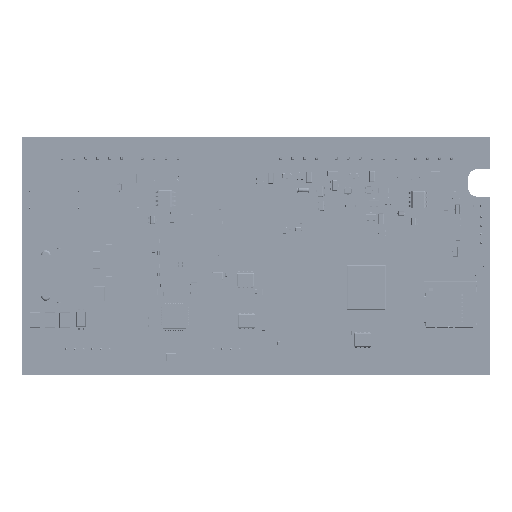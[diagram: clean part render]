
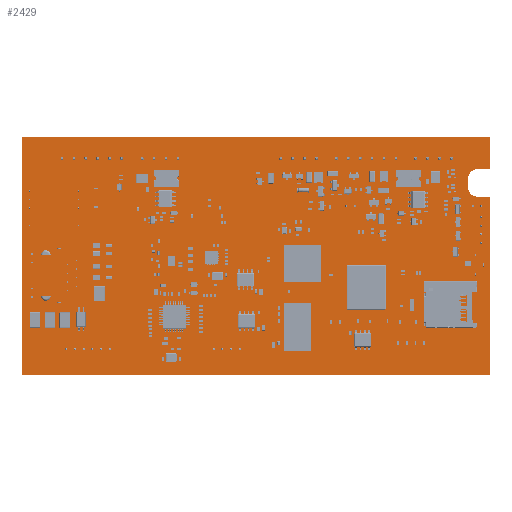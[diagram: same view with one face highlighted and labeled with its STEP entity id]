
A CAD part, top view. The second image highlights one B-rep face of the part: STEP entity #2429.
In plain terms, the highlighted planar face has unit normal (0, 0, 1).
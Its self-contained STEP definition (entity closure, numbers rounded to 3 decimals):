
#2104 = VERTEX_POINT('',#2105);
#2105 = CARTESIAN_POINT('',(0.,0.,1.598));
#2111 = EDGE_CURVE('',#2104,#2112,#2114,.T.);
#2112 = VERTEX_POINT('',#2113);
#2113 = CARTESIAN_POINT('',(0.,69.85,1.598));
#2114 = LINE('',#2115,#2116);
#2115 = CARTESIAN_POINT('',(0.,0.,1.598));
#2116 = VECTOR('',#2117,1.);
#2117 = DIRECTION('',(0.,1.,0.));
#2142 = EDGE_CURVE('',#2112,#2143,#2145,.T.);
#2143 = VERTEX_POINT('',#2144);
#2144 = CARTESIAN_POINT('',(137.16,69.85,1.598));
#2145 = LINE('',#2146,#2147);
#2146 = CARTESIAN_POINT('',(0.,69.85,1.598));
#2147 = VECTOR('',#2148,1.);
#2148 = DIRECTION('',(1.,0.,0.));
#2173 = EDGE_CURVE('',#2143,#2174,#2176,.T.);
#2174 = VERTEX_POINT('',#2175);
#2175 = CARTESIAN_POINT('',(137.16,60.325,1.598));
#2176 = LINE('',#2177,#2178);
#2177 = CARTESIAN_POINT('',(137.16,69.85,1.598));
#2178 = VECTOR('',#2179,1.);
#2179 = DIRECTION('',(0.,-1.,0.));
#2204 = EDGE_CURVE('',#2174,#2205,#2207,.T.);
#2205 = VERTEX_POINT('',#2206);
#2206 = CARTESIAN_POINT('',(133.35,60.325,1.598));
#2207 = LINE('',#2208,#2209);
#2208 = CARTESIAN_POINT('',(137.16,60.325,1.598));
#2209 = VECTOR('',#2210,1.);
#2210 = DIRECTION('',(-1.,0.,0.));
#2235 = EDGE_CURVE('',#2205,#2236,#2238,.T.);
#2236 = VERTEX_POINT('',#2237);
#2237 = CARTESIAN_POINT('',(130.81,57.785,1.598));
#2238 = CIRCLE('',#2239,2.54);
#2239 = AXIS2_PLACEMENT_3D('',#2240,#2241,#2242);
#2240 = CARTESIAN_POINT('',(133.35,57.785,1.598)
  );
#2241 = DIRECTION('',(0.,0.,1.));
#2242 = DIRECTION('',(0.,1.,0.));
#2268 = EDGE_CURVE('',#2236,#2269,#2271,.T.);
#2269 = VERTEX_POINT('',#2270);
#2270 = CARTESIAN_POINT('',(130.81,54.864,1.598));
#2271 = LINE('',#2272,#2273);
#2272 = CARTESIAN_POINT('',(130.81,57.785,1.598));
#2273 = VECTOR('',#2274,1.);
#2274 = DIRECTION('',(0.,-1.,0.));
#2299 = EDGE_CURVE('',#2269,#2300,#2302,.T.);
#2300 = VERTEX_POINT('',#2301);
#2301 = CARTESIAN_POINT('',(133.35,52.324,1.598));
#2302 = CIRCLE('',#2303,2.54);
#2303 = AXIS2_PLACEMENT_3D('',#2304,#2305,#2306);
#2304 = CARTESIAN_POINT('',(133.35,54.864,1.598)
  );
#2305 = DIRECTION('',(0.,0.,1.));
#2306 = DIRECTION('',(-1.,0.,0.));
#2332 = EDGE_CURVE('',#2300,#2333,#2335,.T.);
#2333 = VERTEX_POINT('',#2334);
#2334 = CARTESIAN_POINT('',(137.16,52.324,1.598));
#2335 = LINE('',#2336,#2337);
#2336 = CARTESIAN_POINT('',(133.35,52.324,1.598));
#2337 = VECTOR('',#2338,1.);
#2338 = DIRECTION('',(1.,0.,0.));
#2363 = EDGE_CURVE('',#2333,#2364,#2366,.T.);
#2364 = VERTEX_POINT('',#2365);
#2365 = CARTESIAN_POINT('',(137.16,0.,1.598));
#2366 = LINE('',#2367,#2368);
#2367 = CARTESIAN_POINT('',(137.16,52.324,1.598));
#2368 = VECTOR('',#2369,1.);
#2369 = DIRECTION('',(0.,-1.,0.));
#2394 = EDGE_CURVE('',#2364,#2104,#2395,.T.);
#2395 = LINE('',#2396,#2397);
#2396 = CARTESIAN_POINT('',(137.16,0.,1.598));
#2397 = VECTOR('',#2398,1.);
#2398 = DIRECTION('',(-1.,0.,0.));
#2429 = ADVANCED_FACE('',(#2430),#2442,.F.);
#2430 = FACE_BOUND('',#2431,.F.);
#2431 = EDGE_LOOP('',(#2432,#2433,#2434,#2435,#2436,#2437,#2438,#2439,
    #2440,#2441));
#2432 = ORIENTED_EDGE('',*,*,#2111,.T.);
#2433 = ORIENTED_EDGE('',*,*,#2142,.T.);
#2434 = ORIENTED_EDGE('',*,*,#2173,.T.);
#2435 = ORIENTED_EDGE('',*,*,#2204,.T.);
#2436 = ORIENTED_EDGE('',*,*,#2235,.T.);
#2437 = ORIENTED_EDGE('',*,*,#2268,.T.);
#2438 = ORIENTED_EDGE('',*,*,#2299,.T.);
#2439 = ORIENTED_EDGE('',*,*,#2332,.T.);
#2440 = ORIENTED_EDGE('',*,*,#2363,.T.);
#2441 = ORIENTED_EDGE('',*,*,#2394,.T.);
#2442 = PLANE('',#2443);
#2443 = AXIS2_PLACEMENT_3D('',#2444,#2445,#2446);
#2444 = CARTESIAN_POINT('',(70.087,35.451,1.598)
  );
#2445 = DIRECTION('',(-0.,-0.,-1.));
#2446 = DIRECTION('',(-1.,0.,0.));
